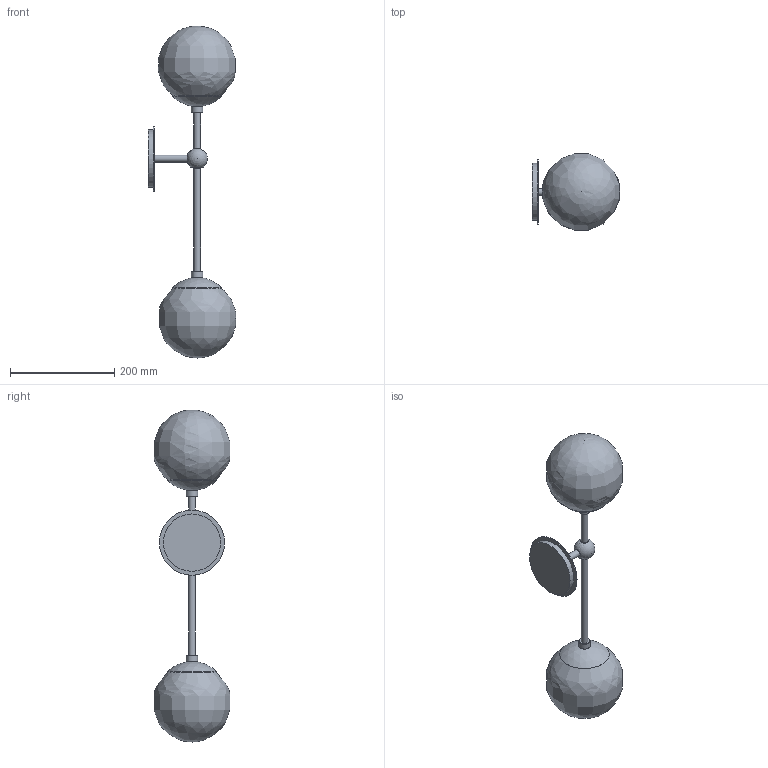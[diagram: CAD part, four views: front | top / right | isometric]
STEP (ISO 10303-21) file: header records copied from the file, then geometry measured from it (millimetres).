
FILE_DESCRIPTION(/* description */ (''),/* implementation_level */ '2;1');
FILE_NAME(/* name */ 'T:\B575 Globe Armstrong Wallsconce 2\Pliki bryłowe handlowe\B575 Armstrong Dual 3D files_na stronę\B575 Armstrong Dual.stp',/* time_stamp */ '2022-02-02T16:17:40+01:00',/* author */ ('Mariusz Awariusz'),/* organization */ (''),/* preprocessor_version */ 'ST-DEVELOPER v18.1',/* originating_system */ 'Autodesk Inventor 2022',/* authorisation */ '');
FILE_SCHEMA (('AUTOMOTIVE_DESIGN { 1 0 10303 214 3 1 1 }'));
Length unit declared in the file: millimetre
Products named in the file (1): B575 Globe Armstrong Wallsconce 2 CE_v1_na potrzeby plików 3D_2_j
ako część_korpus bryłowe
Bounding box: 168.59 x 145.69 x 636.83 mm (x, y, z)
Volume: 495054.6 mm3; surface area: 377460.3 mm2
Topology: 14 solids, 14 shells, 102 faces, 177 edges, 114 vertices
Faces by surface type: plane 38, cylinder 34, cone 15, sphere 7, torus 4, bspline 4
Full cylindrical faces by diameter (mm): 11.6 x5, 11.917 x1, 13 x8, 13.1 x1, 13.5 x3, 16 x4, 20.6 x1, 22 x3, 23.1 x1, 23.5 x1, 50.221 x2, 110 x1, 125 x1
Entity records: 2675 total; most frequent: CARTESIAN_POINT 599, DIRECTION 481, ORIENTED_EDGE 342, AXIS2_PLACEMENT_3D 214, EDGE_CURVE 171, EDGE_LOOP 123, CIRCLE 115, VERTEX_POINT 114
